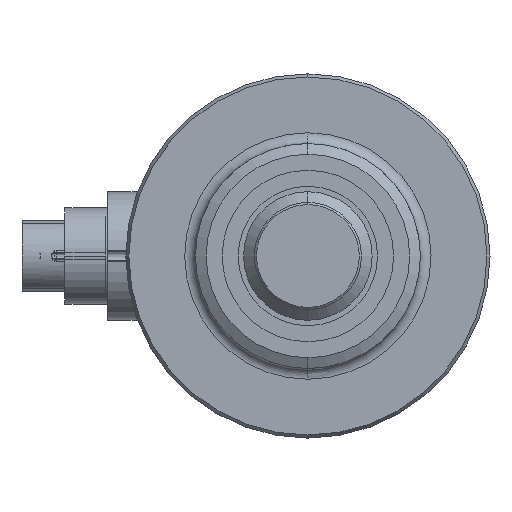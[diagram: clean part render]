
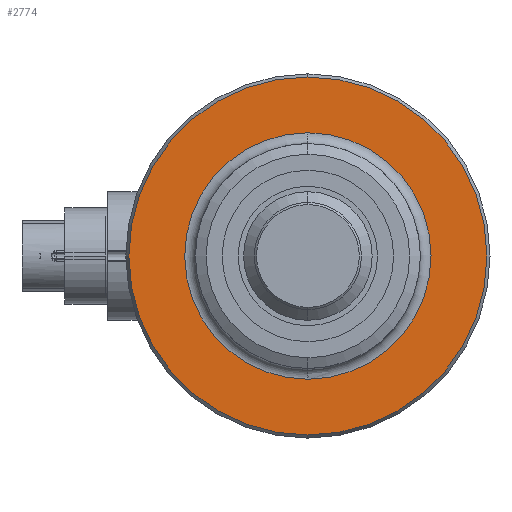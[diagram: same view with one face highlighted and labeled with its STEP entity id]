
A CAD part, left-side view. The second image highlights one B-rep face of the part: STEP entity #2774.
In plain terms, the highlighted planar face has unit normal (-1, 0, 0).
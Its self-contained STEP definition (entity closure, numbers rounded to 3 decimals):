
#663=CARTESIAN_POINT('',(-4.,0.,
0.));
#664=DIRECTION('',(1.,0.,0.));
#665=DIRECTION('',(0.,0.,-1.));
#666=AXIS2_PLACEMENT_3D('',#663,#664,#665);
#668=CARTESIAN_POINT('',(-4.,0.,
0.));
#669=DIRECTION('',(1.,0.,0.));
#670=DIRECTION('',(0.,0.,1.));
#671=AXIS2_PLACEMENT_3D('',#668,#669,#670);
#673=CARTESIAN_POINT('',(-4.,0.,0.));
#674=DIRECTION('',(-1.,0.,0.));
#675=DIRECTION('',(0.,0.,1.));
#676=AXIS2_PLACEMENT_3D('',#673,#674,#675);
#678=CARTESIAN_POINT('',(-4.,0.,0.));
#679=DIRECTION('',(-1.,0.,0.));
#680=DIRECTION('',(0.,0.01,1.));
#681=AXIS2_PLACEMENT_3D('',#678,#679,#680);
#683=CARTESIAN_POINT('',(-4.,0.,0.));
#684=DIRECTION('',(-1.,0.,0.));
#685=DIRECTION('',(0.,0.,-1.));
#686=AXIS2_PLACEMENT_3D('',#683,#684,#685);
#688=CARTESIAN_POINT('',(-4.,0.,0.));
#689=DIRECTION('',(-1.,0.,0.));
#690=DIRECTION('',(0.,-0.01,-1.));
#691=AXIS2_PLACEMENT_3D('',#688,#689,#690);
#1704=CARTESIAN_POINT('',(-4.,0.,
16.711));
#1705=CARTESIAN_POINT('',(-4.,0.,
-16.711));
#1706=VERTEX_POINT('',#1704);
#1707=VERTEX_POINT('',#1705);
#1708=CARTESIAN_POINT('',(-4.,0.116,11.499));
#1709=CARTESIAN_POINT('',(-4.,0.,-11.5));
#1710=VERTEX_POINT('',#1708);
#1711=VERTEX_POINT('',#1709);
#1712=CARTESIAN_POINT('',(-4.,0.,11.5));
#1713=VERTEX_POINT('',#1712);
#1714=CARTESIAN_POINT('',(-4.,-0.116,-11.499));
#1715=VERTEX_POINT('',#1714);
#2754=CARTESIAN_POINT('',(-4.,0.,0.));
#2755=DIRECTION('',(1.,0.,0.));
#2756=DIRECTION('',(0.,0.,1.));
#2757=AXIS2_PLACEMENT_3D('',#2754,#2755,#2756);
#2758=PLANE('',#2757);
#2760=ORIENTED_EDGE('',*,*,#2759,.T.);
#2761=ORIENTED_EDGE('',*,*,#2744,.T.);
#2762=EDGE_LOOP('',(#2760,#2761));
#2763=FACE_OUTER_BOUND('',#2762,.F.);
#2765=ORIENTED_EDGE('',*,*,#2764,.T.);
#2767=ORIENTED_EDGE('',*,*,#2766,.T.);
#2769=ORIENTED_EDGE('',*,*,#2768,.T.);
#2771=ORIENTED_EDGE('',*,*,#2770,.T.);
#2772=EDGE_LOOP('',(#2765,#2767,#2769,#2771));
#2773=FACE_BOUND('',#2772,.F.);
#2774=ADVANCED_FACE('',(#2763,#2773),#2758,.F.);
#667=CIRCLE('',#666,16.711);
#672=CIRCLE('',#671,16.711);
#677=CIRCLE('',#676,11.5);
#682=CIRCLE('',#681,11.5);
#687=CIRCLE('',#686,11.5);
#692=CIRCLE('',#691,11.5);
#2744=EDGE_CURVE('',#1706,#1707,#672,.T.);
#2759=EDGE_CURVE('',#1707,#1706,#667,.T.);
#2764=EDGE_CURVE('',#1713,#1710,#677,.T.);
#2766=EDGE_CURVE('',#1710,#1711,#682,.T.);
#2768=EDGE_CURVE('',#1711,#1715,#687,.T.);
#2770=EDGE_CURVE('',#1715,#1713,#692,.T.);
